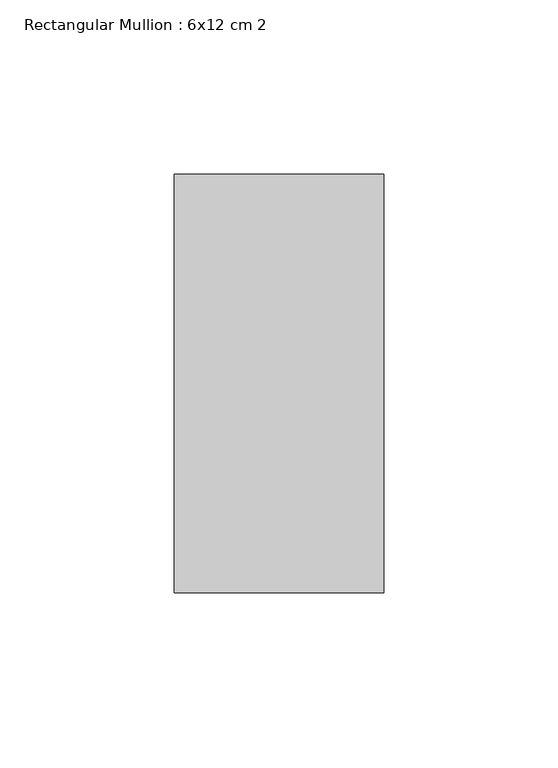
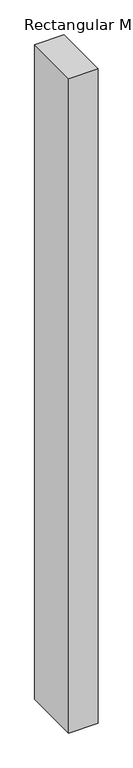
"""IFC4 building model written with IfcOpenShell, lengths in millimetres: member geometry, Rectangular Mullion : 6x12 cm 2."""

from ifc_helpers import new_model, si_unit, frame, origin, place, context, project, spatial, polyline, outline, extrude, source, transform, mapped, element, save


def rectangular_mullion_6x12_cm_2_cfa1558b(model_context):
    return source(origin(), model_context, "Body", "SweptSolid", [
        extrude(outline(polyline([(0.0, 205.0), (0.0, 85.0), (-60.0, 85.0), (-60.0, 205.0), (0.0, 205.0)])), frame((0.0, 0.0, -1407.3322411), z_axis=(0.0, 0.0, 1.0), x_axis=(1.0, 0.0, 0.0)), (0.0, 0.0, 1.0), 1407.3322411),
    ])


if __name__ == "__main__":
    model = new_model("IFC4")
    model_context = context("Model", 3, world=origin())
    ifc_project = project(units=[si_unit("LENGTHUNIT", "METRE", prefix="MILLI")], contexts=[model_context])
    site = spatial("IfcSite", under=ifc_project)
    building = spatial("IfcBuilding", under=site)
    placement = place(None, origin())
    rectangular_mullion_6x12_cm_2_shape = rectangular_mullion_6x12_cm_2_cfa1558b(model_context)
    element("IfcMember", 1, ObjectType="Rectangular Mullion : 6x12 cm 2", at=placement, inside=building, context=model_context, shape_type="MappedRepresentation", body=[
        mapped(rectangular_mullion_6x12_cm_2_shape, transform((0.0, 0.0, 0.0), x_axis=(1.0, 0.0, 0.0), y_axis=(0.0, 1.0, 0.0), z_axis=(0.0, 0.0, 1.0))),
    ])
    save(model, "model.ifc")
